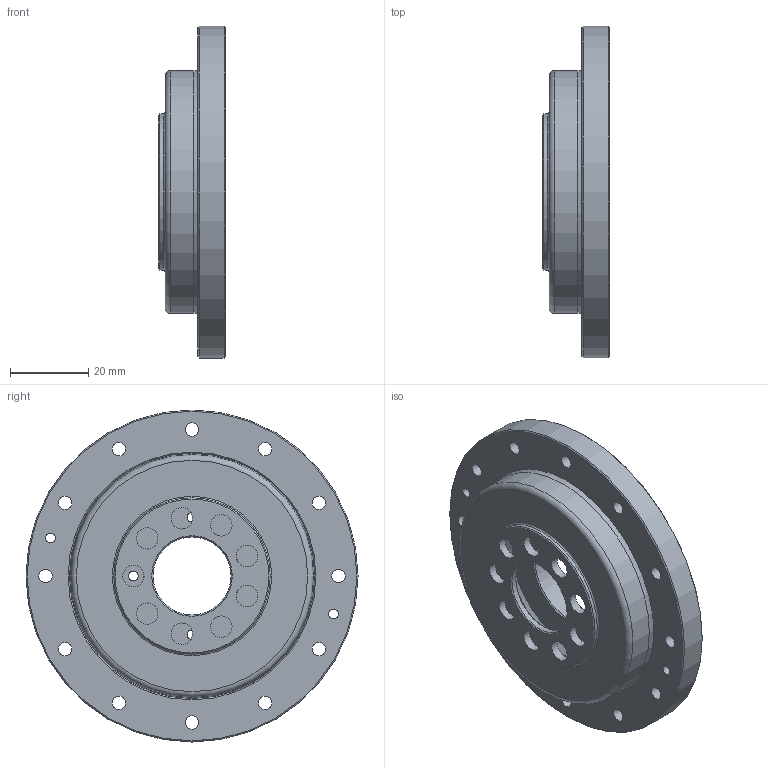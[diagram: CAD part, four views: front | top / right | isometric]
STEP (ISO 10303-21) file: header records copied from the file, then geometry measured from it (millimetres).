
FILE_DESCRIPTION (( 'STEP AP203' ), '1' );
FILE_NAME ('FCD-25-XXX-C.STEP', '2025-03-18T02:19:04', ( '微软用户' ), ( '微软中国' ), 'SwSTEP 2.0', 'SolidWorks 2016', '' );
FILE_SCHEMA (( 'CONFIG_CONTROL_DESIGN' ));
Length unit declared in the file: millimetre
Products named in the file (1): FCD-25-XXX-C
Bounding box: 17 x 85 x 85 mm (x, y, z)
Volume: 36380.4 mm3; surface area: 36880.3 mm2
Topology: 30 solids, 30 shells, 231 faces, 583 edges, 383 vertices
Faces by surface type: cylinder 107, plane 75, sphere 23, cone 16, torus 10
Full cylindrical faces by diameter (mm): 2.5 x6, 3.4 x12, 5.5 x9, 6.5 x12, 20 x1, 24 x1, 40 x1, 44.819 x1, 45.219 x2, 49.321 x2, 49.619 x1, 50 x1, 54 x1, 56.8 x1, 57.426 x2, 60.934 x2, 62.134 x1, 62.838 x1, 64.006 x1, 85 x1
Entity records: 6165 total; most frequent: DIRECTION 1204, CARTESIAN_POINT 972, ORIENTED_EDGE 832, AXIS2_PLACEMENT_3D 556, EDGE_CURVE 416, EDGE_LOOP 376, CIRCLE 324, VERTEX_POINT 324
